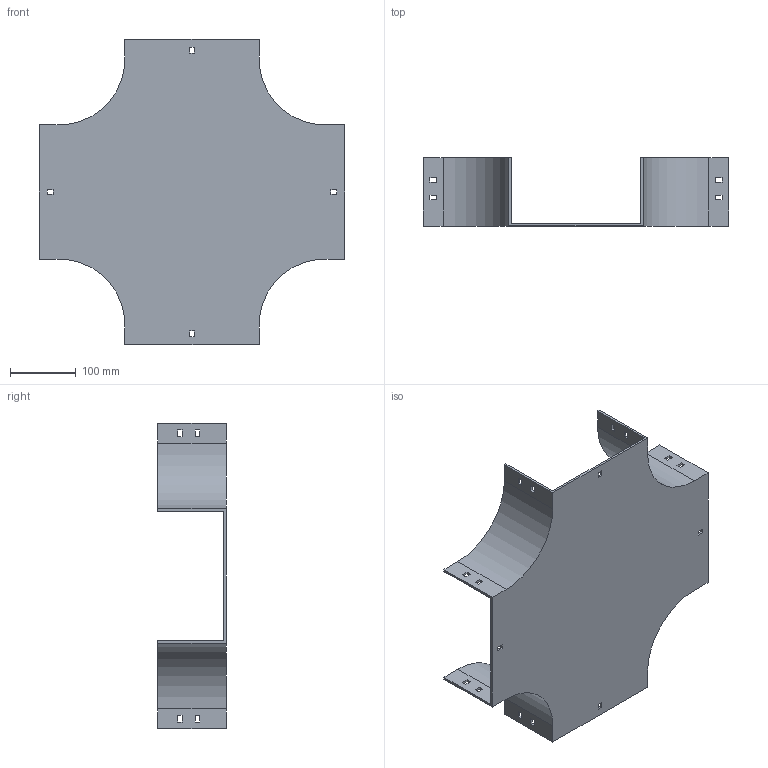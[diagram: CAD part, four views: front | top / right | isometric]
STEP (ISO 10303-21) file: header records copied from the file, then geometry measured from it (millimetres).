
FILE_DESCRIPTION (( 'STEP AP214' ), '1' );
FILE_NAME ('17F1D200.step', '2025-02-21T13:05:10', ( '' ), ( '' ), 'SwSTEP 2.0', 'SolidWorks 2023', '' );
FILE_SCHEMA (( 'AUTOMOTIVE_DESIGN' ));
Length unit declared in the file: millimetre
Products named in the file (1): 17F1D200
Bounding box: 464 x 104 x 464 mm (x, y, z)
Volume: 851540 mm3; surface area: 497641.4 mm2
Topology: 1 solids, 1 shells, 114 faces, 336 edges, 224 vertices
Faces by surface type: plane 106, cylinder 8
Entity records: 3839 total; most frequent: CARTESIAN_POINT 675, ORIENTED_EDGE 672, DIRECTION 582, EDGE_CURVE 336, LINE 320, VECTOR 320, VERTEX_POINT 224, EDGE_LOOP 154
